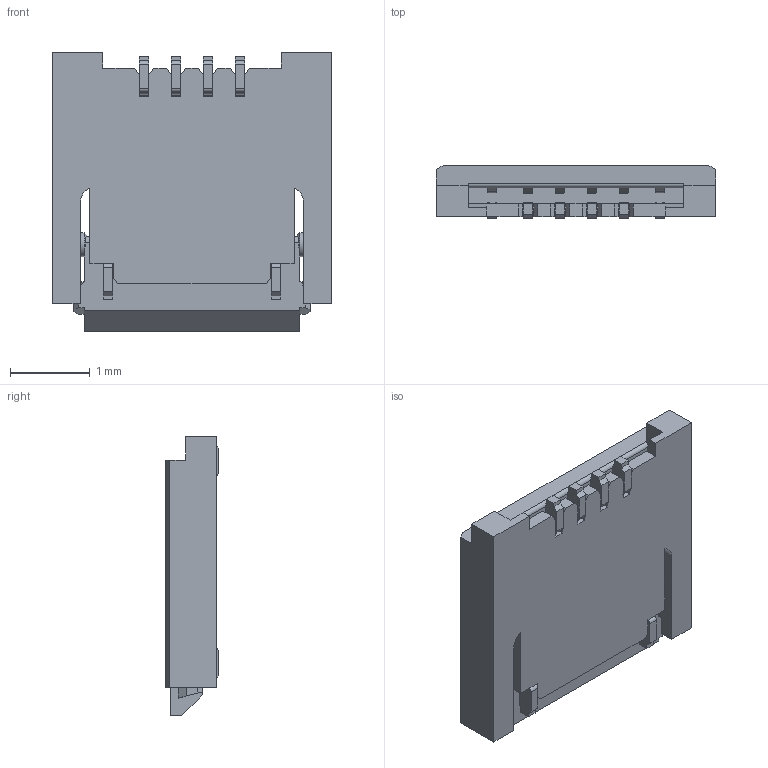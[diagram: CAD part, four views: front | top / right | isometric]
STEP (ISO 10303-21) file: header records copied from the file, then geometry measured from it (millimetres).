
FILE_DESCRIPTION (( 'STEP AP203' ), '1' );
FILE_NAME ('FF18-4A-R1xA-xx(Closed).STEP', '2009-12-02T04:03:09', ( '' ), ( '' ), 'SwSTEP 2.0', 'SolidWorks 2009', '' );
FILE_SCHEMA (( 'CONFIG_CONTROL_DESIGN' ));
Length unit declared in the file: millimetre
Products named in the file (1): FF18-4A-R1xA-xx(Closed)
Bounding box: 3.5 x 0.66 x 3.5 mm (x, y, z)
Volume: 5.4 mm3; surface area: 44.7 mm2
Topology: 1 solids, 1 shells, 290 faces, 883 edges, 581 vertices
Faces by surface type: plane 246, cylinder 41, cone 3
Entity records: 9900 total; most frequent: CARTESIAN_POINT 1842, ORIENTED_EDGE 1766, DIRECTION 1536, EDGE_CURVE 883, VECTOR 776, LINE 776, VERTEX_POINT 581, AXIS2_PLACEMENT_3D 380
